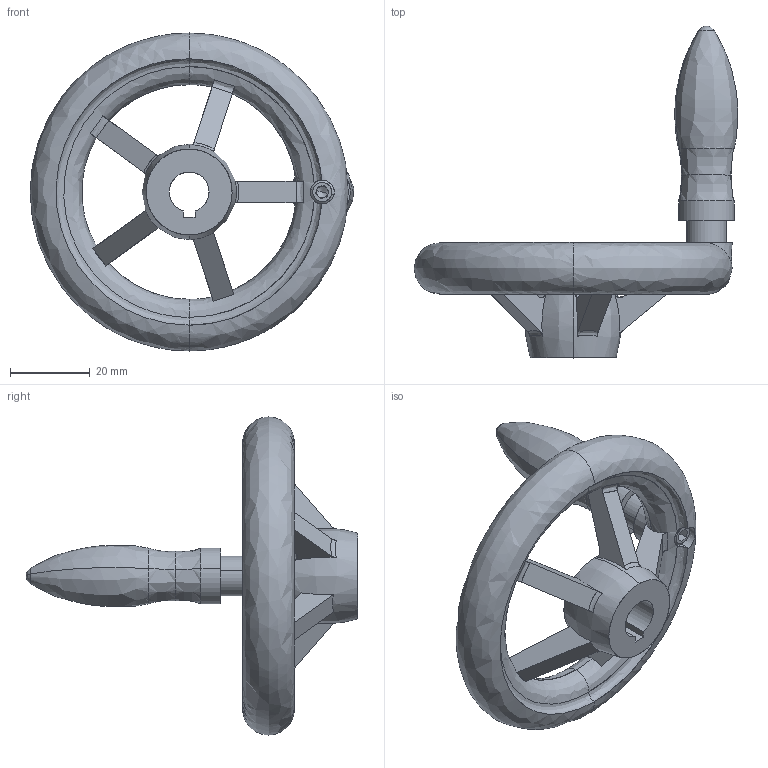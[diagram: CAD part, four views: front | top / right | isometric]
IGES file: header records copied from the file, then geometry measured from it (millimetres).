
Start section: SolidWorks IGES file using analytic representation for surfaces
Global section: file name: C:\Users\IanO\Desktop\Temp File\Process pending\77120_v2\77120_v2_20171108_IGES\77120.W0300.igs; native system: SolidWorks 2017; preprocessor: SolidWorks 2017; author: IanO; date: 171108.083449; units: millimetre
Bounding box: 81.43 x 83.5 x 80 mm (x, y, z)
Surface area: 17638.1 mm2 (no closed solid volume)
Topology: 0 solids, 0 shells, 150 faces, 1794 edges, 1787 vertices
Faces by surface type: bspline 85, revolution 65
